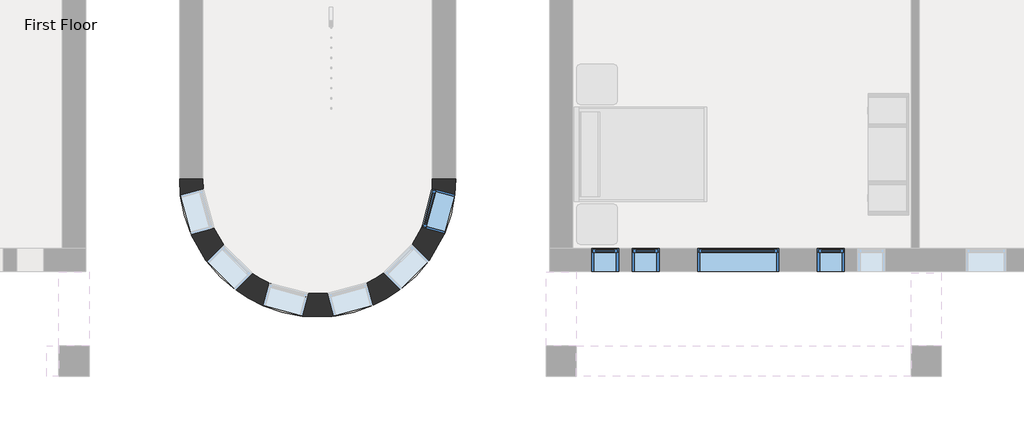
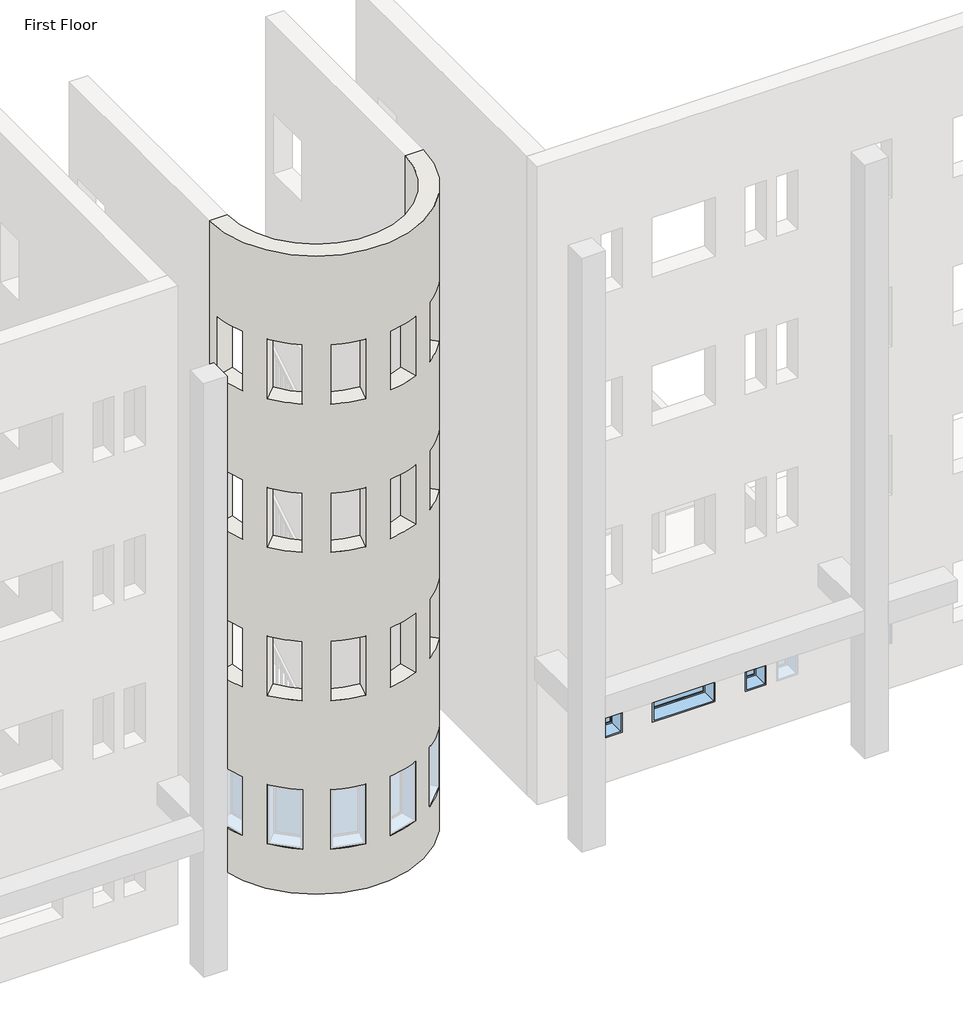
# One storey, part 2 of 23: 5 windows, 1 wall.
"""IFC4 building model written with IfcOpenShell, lengths in millimetres."""

from ifc_helpers import new_model, si_unit, frame, origin, place, context, project, spatial, polyline, circle_curve, transform, mapped, element, save
from ifc_brep_helpers import plane_surface, cylinder_surface, revolved_surface, advanced_brep
from components import window_da97879f, window_d61ef850, window_ed80354a, window_d89bf842

model = new_model("IFC4")

# Units and contexts
model_context = context("Model", 3, world=origin())
ifc_project = project(units=[si_unit("LENGTHUNIT", "METRE", prefix="MILLI")], contexts=[model_context])

# Site, building, storey
site = spatial("IfcSite", under=ifc_project)
building = spatial("IfcBuilding", under=site)
storey = spatial("IfcBuildingStorey", under=building, Name="First Floor", Elevation=0.0)

# Wall
placement = place(None, origin())
element("IfcWall", 1, ObjectType="Exterior - Brick on Mtl. Stud", at=placement, inside=storey, context=model_context, shape_type="AdvancedBrep", body=[
    advanced_brep(
    [(-13333.3839563, -32835.3683133, 13106.4), (-16790.9589563, -32835.3683133, 13106.4), (-17143.3839563, -32835.3683133, 13106.4), (-12980.9589563, -32835.3683133, 13106.4), (-16790.9589563, -32835.3683133, 0.0), (-13333.3839563, -32835.3683133, 0.0), (-12980.9589563, -32835.3683133, 0.0), (-17143.3839563, -32835.3683133, 0.0), (-13495.1055834, -33565.4441794, 8229.6), (-13495.1055834, -33565.4441794, 7010.4), (-13339.1246787, -32976.1377079, 7010.4), (-13339.1246787, -32976.1377079, 8229.6), (-14070.090534, -34251.1654965, 8229.6), (-14070.090534, -34251.1654965, 7010.4), (-13640.3538723, -33818.8015739, 7010.4), (-13640.3538723, -33818.8015739, 8229.6), (-14910.9027666, -34557.5251017, 8229.6), (-14910.9027666, -34557.5251017, 7010.4), (-14322.5579393, -34397.9552919, 7010.4), (-14322.5579393, -34397.9552919, 8229.6), (-15792.2473224, -34402.4341862, 8229.6), (-15792.2473224, -34402.4341862, 7010.4), (-15202.9408509, -34558.4150909, 7010.4), (-15202.9408509, -34558.4150909, 8229.6), (-16477.9686395, -33827.4492356, 8229.6), (-16477.9686395, -33827.4492356, 7010.4), (-16045.6047169, -34257.1858973, 7010.4), (-16045.6047169, -34257.1858973, 8229.6), (-16784.3282447, -32986.637003, 8229.6), (-16784.3282447, -32986.637003, 7010.4), (-16624.7584349, -33574.9818303, 7010.4), (-16624.7584349, -33574.9818303, 8229.6), (-13495.1055834, -33565.4441794, 5181.6), (-13495.1055834, -33565.4441794, 3962.4), (-13339.1246787, -32976.1377079, 3962.4), (-13339.1246787, -32976.1377079, 5181.6), (-14070.090534, -34251.1654965, 5181.6), (-14070.090534, -34251.1654965, 3962.4), (-13640.3538723, -33818.8015739, 3962.4), (-13640.3538723, -33818.8015739, 5181.6), (-14910.9027666, -34557.5251017, 5181.6), (-14910.9027666, -34557.5251017, 3962.4), (-14322.5579393, -34397.9552919, 3962.4), (-14322.5579393, -34397.9552919, 5181.6), (-15792.2473224, -34402.4341862, 5181.6), (-15792.2473224, -34402.4341862, 3962.4), (-15202.9408509, -34558.4150909, 3962.4), (-15202.9408509, -34558.4150909, 5181.6), (-16477.9686395, -33827.4492356, 5181.6), (-16477.9686395, -33827.4492356, 3962.4), (-16045.6047169, -34257.1858973, 3962.4), (-16045.6047169, -34257.1858973, 5181.6), (-16784.3282447, -32986.637003, 5181.6), (-16784.3282447, -32986.637003, 3962.4), (-16624.7584349, -33574.9818303, 3962.4), (-16624.7584349, -33574.9818303, 5181.6), (-13495.1055834, -33565.4441794, 11277.6), (-13495.1055834, -33565.4441794, 10058.4), (-13339.1246787, -32976.1377079, 10058.4), (-13339.1246787, -32976.1377079, 11277.6), (-14070.090534, -34251.1654965, 11277.6), (-14070.090534, -34251.1654965, 10058.4), (-13640.3538723, -33818.8015739, 10058.4), (-13640.3538723, -33818.8015739, 11277.6), (-14910.9027666, -34557.5251017, 11277.6), (-14910.9027666, -34557.5251017, 10058.4), (-14322.5579393, -34397.9552919, 10058.4), (-14322.5579393, -34397.9552919, 11277.6), (-15792.2473224, -34402.4341862, 11277.6), (-15792.2473224, -34402.4341862, 10058.4), (-15202.9408509, -34558.4150909, 10058.4), (-15202.9408509, -34558.4150909, 11277.6), (-16477.9686395, -33827.4492356, 11277.6), (-16477.9686395, -33827.4492356, 10058.4), (-16045.6047169, -34257.1858973, 10058.4), (-16045.6047169, -34257.1858973, 11277.6), (-16784.3282447, -32986.637003, 11277.6), (-16784.3282447, -32986.637003, 10058.4), (-16624.7584349, -33574.9818303, 10058.4), (-16624.7584349, -33574.9818303, 11277.6), (-13495.1055834, -33565.4441794, 2133.6), (-13495.1055834, -33565.4441794, 914.4), (-13339.1246787, -32976.1377079, 914.4), (-13339.1246787, -32976.1377079, 2133.6), (-14070.090534, -34251.1654965, 2133.6), (-14070.090534, -34251.1654965, 914.4), (-13640.3538723, -33818.8015739, 914.4), (-13640.3538723, -33818.8015739, 2133.6), (-14910.9027666, -34557.5251017, 2133.6), (-14910.9027666, -34557.5251017, 914.4), (-14322.5579393, -34397.9552919, 914.4), (-14322.5579393, -34397.9552919, 2133.6), (-15792.2473224, -34402.4341862, 2133.6), (-15792.2473224, -34402.4341862, 914.4), (-15202.9408509, -34558.4150909, 914.4), (-15202.9408509, -34558.4150909, 2133.6), (-16477.9686395, -33827.4492356, 2133.6), (-16477.9686395, -33827.4492356, 914.4), (-16045.6047169, -34257.1858973, 914.4), (-16045.6047169, -34257.1858973, 2133.6), (-16784.3282447, -32986.637003, 914.4), (-16624.7584349, -33574.9818303, 914.4), (-16624.7584349, -33574.9818303, 2133.6), (-16784.3282447, -32986.637003, 2133.6), (-13149.9261748, -33656.8081794, 7010.4), (-13149.9261748, -33656.8081794, 8229.6), (-12993.9452701, -33067.5017078, 8229.6), (-12993.9452701, -33067.5017078, 7010.4), (-13816.8383973, -34502.8787457, 7010.4), (-13816.8383973, -34502.8787457, 8229.6), (-13387.1017356, -34070.5148231, 8229.6), (-13387.1017356, -34070.5148231, 7010.4), (-14817.4366072, -34902.1412384, 7010.4), (-14817.4366072, -34902.1412384, 8229.6), (-14229.0917799, -34742.5714286, 8229.6), (-14229.0917799, -34742.5714286, 7010.4), (-15883.6113224, -34747.6135948, 7010.4), (-15883.6113224, -34747.6135948, 8229.6), (-15294.3048508, -34903.5944995, 8229.6), (-15294.3048508, -34903.5944995, 7010.4), (-16729.6818887, -34080.7013723, 7010.4), (-16729.6818887, -34080.7013723, 8229.6), (-16297.3179661, -34510.4380341, 8229.6), (-16297.3179661, -34510.4380341, 7010.4), (-17128.9443814, -33080.1031624, 7010.4), (-17128.9443814, -33080.1031624, 8229.6), (-16969.3745716, -33668.4479897, 8229.6), (-16969.3745716, -33668.4479897, 7010.4), (-13149.9261748, -33656.8081794, 3962.4), (-13149.9261748, -33656.8081794, 5181.6), (-12993.9452701, -33067.5017078, 5181.6), (-12993.9452701, -33067.5017078, 3962.4), (-13816.8383973, -34502.8787457, 3962.4), (-13816.8383973, -34502.8787457, 5181.6), (-13387.1017356, -34070.5148231, 5181.6), (-13387.1017356, -34070.5148231, 3962.4), (-14817.4366072, -34902.1412384, 3962.4), (-14817.4366072, -34902.1412384, 5181.6), (-14229.0917799, -34742.5714286, 5181.6), (-14229.0917799, -34742.5714286, 3962.4), (-15883.6113224, -34747.6135948, 3962.4), (-15883.6113224, -34747.6135948, 5181.6), (-15294.3048508, -34903.5944995, 5181.6), (-15294.3048508, -34903.5944995, 3962.4), (-16729.6818887, -34080.7013723, 3962.4), (-16729.6818887, -34080.7013723, 5181.6), (-16297.3179661, -34510.4380341, 5181.6), (-16297.3179661, -34510.4380341, 3962.4), (-17128.9443814, -33080.1031624, 3962.4), (-17128.9443814, -33080.1031624, 5181.6), (-16969.3745716, -33668.4479897, 5181.6), (-16969.3745716, -33668.4479897, 3962.4), (-13149.9261748, -33656.8081794, 10058.4), (-13149.9261748, -33656.8081794, 11277.6), (-12993.9452701, -33067.5017078, 11277.6), (-12993.9452701, -33067.5017078, 10058.4), (-13816.8383973, -34502.8787457, 10058.4), (-13816.8383973, -34502.8787457, 11277.6), (-13387.1017356, -34070.5148231, 11277.6), (-13387.1017356, -34070.5148231, 10058.4), (-14817.4366072, -34902.1412384, 10058.4), (-14817.4366072, -34902.1412384, 11277.6), (-14229.0917799, -34742.5714286, 11277.6), (-14229.0917799, -34742.5714286, 10058.4), (-15883.6113224, -34747.6135948, 10058.4), (-15883.6113224, -34747.6135948, 11277.6), (-15294.3048508, -34903.5944995, 11277.6), (-15294.3048508, -34903.5944995, 10058.4), (-16729.6818887, -34080.7013723, 10058.4), (-16729.6818887, -34080.7013723, 11277.6), (-16297.3179661, -34510.4380341, 11277.6), (-16297.3179661, -34510.4380341, 10058.4), (-17128.9443814, -33080.1031624, 10058.4), (-17128.9443814, -33080.1031624, 11277.6), (-16969.3745716, -33668.4479897, 11277.6), (-16969.3745716, -33668.4479897, 10058.4), (-13149.9261748, -33656.8081794, 914.4), (-13149.9261748, -33656.8081794, 2133.6), (-12993.9452701, -33067.5017078, 2133.6), (-12993.9452701, -33067.5017078, 914.4), (-13816.8383973, -34502.8787457, 914.4), (-13816.8383973, -34502.8787457, 2133.6), (-13387.1017356, -34070.5148231, 2133.6), (-13387.1017356, -34070.5148231, 914.4), (-14817.4366072, -34902.1412384, 914.4), (-14817.4366072, -34902.1412384, 2133.6), (-14229.0917799, -34742.5714286, 2133.6), (-14229.0917799, -34742.5714286, 914.4), (-15883.6113224, -34747.6135948, 914.4), (-15883.6113224, -34747.6135948, 2133.6), (-15294.3048508, -34903.5944995, 2133.6), (-15294.3048508, -34903.5944995, 914.4), (-16729.6818887, -34080.7013723, 914.4), (-16729.6818887, -34080.7013723, 2133.6), (-16297.3179661, -34510.4380341, 2133.6), (-16297.3179661, -34510.4380341, 914.4), (-16969.3745716, -33668.4479897, 914.4), (-17128.9443814, -33080.1031624, 914.4), (-17128.9443814, -33080.1031624, 2133.6), (-16969.3745716, -33668.4479897, 2133.6)],
    [
        (0, 1, circle_curve(frame((-15062.1714563, -32835.3683133, 13106.4), z_axis=(0.0, 0.0, -1.0), x_axis=(1.0, 0.0, 0.0)), 1728.7875)),
        (1, 2),
        (2, 3, circle_curve(frame((-15062.1714563, -32835.3683133, 13106.4), z_axis=(0.0, 0.0, 1.0), x_axis=(1.0, 0.0, 0.0)), 2081.2125)),
        (3, 0),
        (4, 5, circle_curve(frame((-15062.1714563, -32835.3683133, 0.0), z_axis=(0.0, 0.0, 1.0), x_axis=(1.0, 0.0, 0.0)), 1728.7875)),
        (5, 6),
        (6, 7, circle_curve(frame((-15062.1714563, -32835.3683133, 0.0), z_axis=(0.0, 0.0, -1.0), x_axis=(1.0, 0.0, 0.0)), 2081.2125)),
        (7, 4),
        (0, 5),
        (4, 1),
        (8, 9),
        (9, 10, circle_curve(frame((-15062.1714563, -32835.3683133, 7010.4), z_axis=(0.0, 0.0, 1.0), x_axis=(1.0, 0.0, 0.0)), 1728.7875)),
        (10, 11),
        (11, 8, circle_curve(frame((-15062.1714563, -32835.3683133, 8229.6), z_axis=(0.0, 0.0, -1.0), x_axis=(1.0, 0.0, 0.0)), 1728.7875)),
        (12, 13),
        (13, 14, circle_curve(frame((-15062.1714563, -32835.3683133, 7010.4), z_axis=(0.0, 0.0, 1.0), x_axis=(1.0, 0.0, 0.0)), 1728.7875)),
        (14, 15),
        (15, 12, circle_curve(frame((-15062.1714563, -32835.3683133, 8229.6), z_axis=(0.0, 0.0, -1.0), x_axis=(1.0, 0.0, 0.0)), 1728.7875)),
        (16, 17),
        (17, 18, circle_curve(frame((-15062.1714563, -32835.3683133, 7010.4), z_axis=(0.0, 0.0, 1.0), x_axis=(1.0, 0.0, 0.0)), 1728.7875)),
        (18, 19),
        (19, 16, circle_curve(frame((-15062.1714563, -32835.3683133, 8229.6), z_axis=(0.0, 0.0, -1.0), x_axis=(1.0, 0.0, 0.0)), 1728.7875)),
        (20, 21),
        (21, 22, circle_curve(frame((-15062.1714563, -32835.3683133, 7010.4), z_axis=(0.0, 0.0, 1.0), x_axis=(1.0, 0.0, 0.0)), 1728.7875)),
        (22, 23),
        (23, 20, circle_curve(frame((-15062.1714563, -32835.3683133, 8229.6), z_axis=(0.0, 0.0, -1.0), x_axis=(1.0, 0.0, 0.0)), 1728.7875)),
        (24, 25),
        (25, 26, circle_curve(frame((-15062.1714563, -32835.3683133, 7010.4), z_axis=(0.0, 0.0, 1.0), x_axis=(1.0, 0.0, 0.0)), 1728.7875)),
        (26, 27),
        (27, 24, circle_curve(frame((-15062.1714563, -32835.3683133, 8229.6), z_axis=(0.0, 0.0, -1.0), x_axis=(1.0, 0.0, 0.0)), 1728.7875)),
        (28, 29),
        (29, 30, circle_curve(frame((-15062.1714563, -32835.3683133, 7010.4), z_axis=(0.0, 0.0, 1.0), x_axis=(1.0, 0.0, 0.0)), 1728.7875)),
        (30, 31),
        (31, 28, circle_curve(frame((-15062.1714563, -32835.3683133, 8229.6), z_axis=(0.0, 0.0, -1.0), x_axis=(1.0, 0.0, 0.0)), 1728.7875)),
        (32, 33),
        (33, 34, circle_curve(frame((-15062.1714563, -32835.3683133, 3962.4), z_axis=(0.0, 0.0, 1.0), x_axis=(1.0, 0.0, 0.0)), 1728.7875)),
        (34, 35),
        (35, 32, circle_curve(frame((-15062.1714563, -32835.3683133, 5181.6), z_axis=(0.0, 0.0, -1.0), x_axis=(1.0, 0.0, 0.0)), 1728.7875)),
        (36, 37),
        (37, 38, circle_curve(frame((-15062.1714563, -32835.3683133, 3962.4), z_axis=(0.0, 0.0, 1.0), x_axis=(1.0, 0.0, 0.0)), 1728.7875)),
        (38, 39),
        (39, 36, circle_curve(frame((-15062.1714563, -32835.3683133, 5181.6), z_axis=(0.0, 0.0, -1.0), x_axis=(1.0, 0.0, 0.0)), 1728.7875)),
        (40, 41),
        (41, 42, circle_curve(frame((-15062.1714563, -32835.3683133, 3962.4), z_axis=(0.0, 0.0, 1.0), x_axis=(1.0, 0.0, 0.0)), 1728.7875)),
        (42, 43),
        (43, 40, circle_curve(frame((-15062.1714563, -32835.3683133, 5181.6), z_axis=(0.0, 0.0, -1.0), x_axis=(1.0, 0.0, 0.0)), 1728.7875)),
        (44, 45),
        (45, 46, circle_curve(frame((-15062.1714563, -32835.3683133, 3962.4), z_axis=(0.0, 0.0, 1.0), x_axis=(1.0, 0.0, 0.0)), 1728.7875)),
        (46, 47),
        (47, 44, circle_curve(frame((-15062.1714563, -32835.3683133, 5181.6), z_axis=(0.0, 0.0, -1.0), x_axis=(1.0, 0.0, 0.0)), 1728.7875)),
        (48, 49),
        (49, 50, circle_curve(frame((-15062.1714563, -32835.3683133, 3962.4), z_axis=(0.0, 0.0, 1.0), x_axis=(1.0, 0.0, 0.0)), 1728.7875)),
        (50, 51),
        (51, 48, circle_curve(frame((-15062.1714563, -32835.3683133, 5181.6), z_axis=(0.0, 0.0, -1.0), x_axis=(1.0, 0.0, 0.0)), 1728.7875)),
        (52, 53),
        (53, 54, circle_curve(frame((-15062.1714563, -32835.3683133, 3962.4), z_axis=(0.0, 0.0, 1.0), x_axis=(1.0, 0.0, 0.0)), 1728.7875)),
        (54, 55),
        (55, 52, circle_curve(frame((-15062.1714563, -32835.3683133, 5181.6), z_axis=(0.0, 0.0, -1.0), x_axis=(1.0, 0.0, 0.0)), 1728.7875)),
        (56, 57),
        (57, 58, circle_curve(frame((-15062.1714563, -32835.3683133, 10058.4), z_axis=(0.0, 0.0, 1.0), x_axis=(1.0, 0.0, 0.0)), 1728.7875)),
        (58, 59),
        (59, 56, circle_curve(frame((-15062.1714563, -32835.3683133, 11277.6), z_axis=(0.0, 0.0, -1.0), x_axis=(1.0, 0.0, 0.0)), 1728.7875)),
        (60, 61),
        (61, 62, circle_curve(frame((-15062.1714563, -32835.3683133, 10058.4), z_axis=(0.0, 0.0, 1.0), x_axis=(1.0, 0.0, 0.0)), 1728.7875)),
        (62, 63),
        (63, 60, circle_curve(frame((-15062.1714563, -32835.3683133, 11277.6), z_axis=(0.0, 0.0, -1.0), x_axis=(1.0, 0.0, 0.0)), 1728.7875)),
        (64, 65),
        (65, 66, circle_curve(frame((-15062.1714563, -32835.3683133, 10058.4), z_axis=(0.0, 0.0, 1.0), x_axis=(1.0, 0.0, 0.0)), 1728.7875)),
        (66, 67),
        (67, 64, circle_curve(frame((-15062.1714563, -32835.3683133, 11277.6), z_axis=(0.0, 0.0, -1.0), x_axis=(1.0, 0.0, 0.0)), 1728.7875)),
        (68, 69),
        (69, 70, circle_curve(frame((-15062.1714563, -32835.3683133, 10058.4), z_axis=(0.0, 0.0, 1.0), x_axis=(1.0, 0.0, 0.0)), 1728.7875)),
        (70, 71),
        (71, 68, circle_curve(frame((-15062.1714563, -32835.3683133, 11277.6), z_axis=(0.0, 0.0, -1.0), x_axis=(1.0, 0.0, 0.0)), 1728.7875)),
        (72, 73),
        (73, 74, circle_curve(frame((-15062.1714563, -32835.3683133, 10058.4), z_axis=(0.0, 0.0, 1.0), x_axis=(1.0, 0.0, 0.0)), 1728.7875)),
        (74, 75),
        (75, 72, circle_curve(frame((-15062.1714563, -32835.3683133, 11277.6), z_axis=(0.0, 0.0, -1.0), x_axis=(1.0, 0.0, 0.0)), 1728.7875)),
        (76, 77),
        (77, 78, circle_curve(frame((-15062.1714563, -32835.3683133, 10058.4), z_axis=(0.0, 0.0, 1.0), x_axis=(1.0, 0.0, 0.0)), 1728.7875)),
        (78, 79),
        (79, 76, circle_curve(frame((-15062.1714563, -32835.3683133, 11277.6), z_axis=(0.0, 0.0, -1.0), x_axis=(1.0, 0.0, 0.0)), 1728.7875)),
        (80, 81),
        (81, 82, circle_curve(frame((-15062.1714563, -32835.3683133, 914.4), z_axis=(0.0, 0.0, 1.0), x_axis=(1.0, 0.0, 0.0)), 1728.7875)),
        (82, 83),
        (83, 80, circle_curve(frame((-15062.1714563, -32835.3683133, 2133.6), z_axis=(0.0, 0.0, -1.0), x_axis=(1.0, 0.0, 0.0)), 1728.7875)),
        (84, 85),
        (85, 86, circle_curve(frame((-15062.1714563, -32835.3683133, 914.4), z_axis=(0.0, 0.0, 1.0), x_axis=(1.0, 0.0, 0.0)), 1728.7875)),
        (86, 87),
        (87, 84, circle_curve(frame((-15062.1714563, -32835.3683133, 2133.6), z_axis=(0.0, 0.0, -1.0), x_axis=(1.0, 0.0, 0.0)), 1728.7875)),
        (88, 89),
        (89, 90, circle_curve(frame((-15062.1714563, -32835.3683133, 914.4), z_axis=(0.0, 0.0, 1.0), x_axis=(1.0, 0.0, 0.0)), 1728.7875)),
        (90, 91),
        (91, 88, circle_curve(frame((-15062.1714563, -32835.3683133, 2133.6), z_axis=(0.0, 0.0, -1.0), x_axis=(1.0, 0.0, 0.0)), 1728.7875)),
        (92, 93),
        (93, 94, circle_curve(frame((-15062.1714563, -32835.3683133, 914.4), z_axis=(0.0, 0.0, 1.0), x_axis=(1.0, 0.0, 0.0)), 1728.7875)),
        (94, 95),
        (95, 92, circle_curve(frame((-15062.1714563, -32835.3683133, 2133.6), z_axis=(0.0, 0.0, -1.0), x_axis=(1.0, 0.0, 0.0)), 1728.7875)),
        (96, 97),
        (97, 98, circle_curve(frame((-15062.1714563, -32835.3683133, 914.4), z_axis=(0.0, 0.0, 1.0), x_axis=(1.0, 0.0, 0.0)), 1728.7875)),
        (98, 99),
        (99, 96, circle_curve(frame((-15062.1714563, -32835.3683133, 2133.6), z_axis=(0.0, 0.0, -1.0), x_axis=(1.0, 0.0, 0.0)), 1728.7875)),
        (100, 101, circle_curve(frame((-15062.1714563, -32835.3683133, 914.4), z_axis=(0.0, 0.0, 1.0), x_axis=(1.0, 0.0, 0.0)), 1728.7875)),
        (101, 102),
        (102, 103, circle_curve(frame((-15062.1714563, -32835.3683133, 2133.6), z_axis=(0.0, 0.0, -1.0), x_axis=(1.0, 0.0, 0.0)), 1728.7875)),
        (103, 100),
        (7, 2),
        (6, 3),
        (104, 105),
        (105, 106, circle_curve(frame((-15062.1714563, -32835.3683133, 8229.6), z_axis=(0.0, 0.0, 1.0), x_axis=(1.0, 0.0, 0.0)), 2081.2125)),
        (106, 107),
        (107, 104, circle_curve(frame((-15062.1714563, -32835.3683133, 7010.4), z_axis=(0.0, 0.0, -1.0), x_axis=(1.0, 0.0, 0.0)), 2081.2125)),
        (108, 109),
        (109, 110, circle_curve(frame((-15062.1714563, -32835.3683133, 8229.6), z_axis=(0.0, 0.0, 1.0), x_axis=(1.0, 0.0, 0.0)), 2081.2125)),
        (110, 111),
        (111, 108, circle_curve(frame((-15062.1714563, -32835.3683133, 7010.4), z_axis=(0.0, 0.0, -1.0), x_axis=(1.0, 0.0, 0.0)), 2081.2125)),
        (112, 113),
        (113, 114, circle_curve(frame((-15062.1714563, -32835.3683133, 8229.6), z_axis=(0.0, 0.0, 1.0), x_axis=(1.0, 0.0, 0.0)), 2081.2125)),
        (114, 115),
        (115, 112, circle_curve(frame((-15062.1714563, -32835.3683133, 7010.4), z_axis=(0.0, 0.0, -1.0), x_axis=(1.0, 0.0, 0.0)), 2081.2125)),
        (116, 117),
        (117, 118, circle_curve(frame((-15062.1714563, -32835.3683133, 8229.6), z_axis=(0.0, 0.0, 1.0), x_axis=(1.0, 0.0, 0.0)), 2081.2125)),
        (118, 119),
        (119, 116, circle_curve(frame((-15062.1714563, -32835.3683133, 7010.4), z_axis=(0.0, 0.0, -1.0), x_axis=(1.0, 0.0, 0.0)), 2081.2125)),
        (120, 121),
        (121, 122, circle_curve(frame((-15062.1714563, -32835.3683133, 8229.6), z_axis=(0.0, 0.0, 1.0), x_axis=(1.0, 0.0, 0.0)), 2081.2125)),
        (122, 123),
        (123, 120, circle_curve(frame((-15062.1714563, -32835.3683133, 7010.4), z_axis=(0.0, 0.0, -1.0), x_axis=(1.0, 0.0, 0.0)), 2081.2125)),
        (124, 125),
        (125, 126, circle_curve(frame((-15062.1714563, -32835.3683133, 8229.6), z_axis=(0.0, 0.0, 1.0), x_axis=(1.0, 0.0, 0.0)), 2081.2125)),
        (126, 127),
        (127, 124, circle_curve(frame((-15062.1714563, -32835.3683133, 7010.4), z_axis=(0.0, 0.0, -1.0), x_axis=(1.0, 0.0, 0.0)), 2081.2125)),
        (128, 129),
        (129, 130, circle_curve(frame((-15062.1714563, -32835.3683133, 5181.6), z_axis=(0.0, 0.0, 1.0), x_axis=(1.0, 0.0, 0.0)), 2081.2125)),
        (130, 131),
        (131, 128, circle_curve(frame((-15062.1714563, -32835.3683133, 3962.4), z_axis=(0.0, 0.0, -1.0), x_axis=(1.0, 0.0, 0.0)), 2081.2125)),
        (132, 133),
        (133, 134, circle_curve(frame((-15062.1714563, -32835.3683133, 5181.6), z_axis=(0.0, 0.0, 1.0), x_axis=(1.0, 0.0, 0.0)), 2081.2125)),
        (134, 135),
        (135, 132, circle_curve(frame((-15062.1714563, -32835.3683133, 3962.4), z_axis=(0.0, 0.0, -1.0), x_axis=(1.0, 0.0, 0.0)), 2081.2125)),
        (136, 137),
        (137, 138, circle_curve(frame((-15062.1714563, -32835.3683133, 5181.6), z_axis=(0.0, 0.0, 1.0), x_axis=(1.0, 0.0, 0.0)), 2081.2125)),
        (138, 139),
        (139, 136, circle_curve(frame((-15062.1714563, -32835.3683133, 3962.4), z_axis=(0.0, 0.0, -1.0), x_axis=(1.0, 0.0, 0.0)), 2081.2125)),
        (140, 141),
        (141, 142, circle_curve(frame((-15062.1714563, -32835.3683133, 5181.6), z_axis=(0.0, 0.0, 1.0), x_axis=(1.0, 0.0, 0.0)), 2081.2125)),
        (142, 143),
        (143, 140, circle_curve(frame((-15062.1714563, -32835.3683133, 3962.4), z_axis=(0.0, 0.0, -1.0), x_axis=(1.0, 0.0, 0.0)), 2081.2125)),
        (144, 145),
        (145, 146, circle_curve(frame((-15062.1714563, -32835.3683133, 5181.6), z_axis=(0.0, 0.0, 1.0), x_axis=(1.0, 0.0, 0.0)), 2081.2125)),
        (146, 147),
        (147, 144, circle_curve(frame((-15062.1714563, -32835.3683133, 3962.4), z_axis=(0.0, 0.0, -1.0), x_axis=(1.0, 0.0, 0.0)), 2081.2125)),
        (148, 149),
        (149, 150, circle_curve(frame((-15062.1714563, -32835.3683133, 5181.6), z_axis=(0.0, 0.0, 1.0), x_axis=(1.0, 0.0, 0.0)), 2081.2125)),
        (150, 151),
        (151, 148, circle_curve(frame((-15062.1714563, -32835.3683133, 3962.4), z_axis=(0.0, 0.0, -1.0), x_axis=(1.0, 0.0, 0.0)), 2081.2125)),
        (152, 153),
        (153, 154, circle_curve(frame((-15062.1714563, -32835.3683133, 11277.6), z_axis=(0.0, 0.0, 1.0), x_axis=(1.0, 0.0, 0.0)), 2081.2125)),
        (154, 155),
        (155, 152, circle_curve(frame((-15062.1714563, -32835.3683133, 10058.4), z_axis=(0.0, 0.0, -1.0), x_axis=(1.0, 0.0, 0.0)), 2081.2125)),
        (156, 157),
        (157, 158, circle_curve(frame((-15062.1714563, -32835.3683133, 11277.6), z_axis=(0.0, 0.0, 1.0), x_axis=(1.0, 0.0, 0.0)), 2081.2125)),
        (158, 159),
        (159, 156, circle_curve(frame((-15062.1714563, -32835.3683133, 10058.4), z_axis=(0.0, 0.0, -1.0), x_axis=(1.0, 0.0, 0.0)), 2081.2125)),
        (160, 161),
        (161, 162, circle_curve(frame((-15062.1714563, -32835.3683133, 11277.6), z_axis=(0.0, 0.0, 1.0), x_axis=(1.0, 0.0, 0.0)), 2081.2125)),
        (162, 163),
        (163, 160, circle_curve(frame((-15062.1714563, -32835.3683133, 10058.4), z_axis=(0.0, 0.0, -1.0), x_axis=(1.0, 0.0, 0.0)), 2081.2125)),
        (164, 165),
        (165, 166, circle_curve(frame((-15062.1714563, -32835.3683133, 11277.6), z_axis=(0.0, 0.0, 1.0), x_axis=(1.0, 0.0, 0.0)), 2081.2125)),
        (166, 167),
        (167, 164, circle_curve(frame((-15062.1714563, -32835.3683133, 10058.4), z_axis=(0.0, 0.0, -1.0), x_axis=(1.0, 0.0, 0.0)), 2081.2125)),
        (168, 169),
        (169, 170, circle_curve(frame((-15062.1714563, -32835.3683133, 11277.6), z_axis=(0.0, 0.0, 1.0), x_axis=(1.0, 0.0, 0.0)), 2081.2125)),
        (170, 171),
        (171, 168, circle_curve(frame((-15062.1714563, -32835.3683133, 10058.4), z_axis=(0.0, 0.0, -1.0), x_axis=(1.0, 0.0, 0.0)), 2081.2125)),
        (172, 173),
        (173, 174, circle_curve(frame((-15062.1714563, -32835.3683133, 11277.6), z_axis=(0.0, 0.0, 1.0), x_axis=(1.0, 0.0, 0.0)), 2081.2125)),
        (174, 175),
        (175, 172, circle_curve(frame((-15062.1714563, -32835.3683133, 10058.4), z_axis=(0.0, 0.0, -1.0), x_axis=(1.0, 0.0, 0.0)), 2081.2125)),
        (176, 177),
        (177, 178, circle_curve(frame((-15062.1714563, -32835.3683133, 2133.6), z_axis=(0.0, 0.0, 1.0), x_axis=(1.0, 0.0, 0.0)), 2081.2125)),
        (178, 179),
        (179, 176, circle_curve(frame((-15062.1714563, -32835.3683133, 914.4), z_axis=(0.0, 0.0, -1.0), x_axis=(1.0, 0.0, 0.0)), 2081.2125)),
        (180, 181),
        (181, 182, circle_curve(frame((-15062.1714563, -32835.3683133, 2133.6), z_axis=(0.0, 0.0, 1.0), x_axis=(1.0, 0.0, 0.0)), 2081.2125)),
        (182, 183),
        (183, 180, circle_curve(frame((-15062.1714563, -32835.3683133, 914.4), z_axis=(0.0, 0.0, -1.0), x_axis=(1.0, 0.0, 0.0)), 2081.2125)),
        (184, 185),
        (185, 186, circle_curve(frame((-15062.1714563, -32835.3683133, 2133.6), z_axis=(0.0, 0.0, 1.0), x_axis=(1.0, 0.0, 0.0)), 2081.2125)),
        (186, 187),
        (187, 184, circle_curve(frame((-15062.1714563, -32835.3683133, 914.4), z_axis=(0.0, 0.0, -1.0), x_axis=(1.0, 0.0, 0.0)), 2081.2125)),
        (188, 189),
        (189, 190, circle_curve(frame((-15062.1714563, -32835.3683133, 2133.6), z_axis=(0.0, 0.0, 1.0), x_axis=(1.0, 0.0, 0.0)), 2081.2125)),
        (190, 191),
        (191, 188, circle_curve(frame((-15062.1714563, -32835.3683133, 914.4), z_axis=(0.0, 0.0, -1.0), x_axis=(1.0, 0.0, 0.0)), 2081.2125)),
        (192, 193),
        (193, 194, circle_curve(frame((-15062.1714563, -32835.3683133, 2133.6), z_axis=(0.0, 0.0, 1.0), x_axis=(1.0, 0.0, 0.0)), 2081.2125)),
        (194, 195),
        (195, 192, circle_curve(frame((-15062.1714563, -32835.3683133, 914.4), z_axis=(0.0, 0.0, -1.0), x_axis=(1.0, 0.0, 0.0)), 2081.2125)),
        (196, 197, circle_curve(frame((-15062.1714563, -32835.3683133, 914.4), z_axis=(0.0, 0.0, -1.0), x_axis=(1.0, 0.0, 0.0)), 2081.2125)),
        (197, 198),
        (198, 199, circle_curve(frame((-15062.1714563, -32835.3683133, 2133.6), z_axis=(0.0, 0.0, 1.0), x_axis=(1.0, 0.0, 0.0)), 2081.2125)),
        (199, 196),
        (8, 105),
        (104, 9),
        (107, 10),
        (106, 11),
        (12, 109),
        (108, 13),
        (111, 14),
        (110, 15),
        (16, 113),
        (112, 17),
        (115, 18),
        (114, 19),
        (20, 117),
        (116, 21),
        (119, 22),
        (118, 23),
        (24, 121),
        (120, 25),
        (123, 26),
        (122, 27),
        (28, 125),
        (124, 29),
        (127, 30),
        (126, 31),
        (32, 129),
        (128, 33),
        (131, 34),
        (130, 35),
        (36, 133),
        (132, 37),
        (135, 38),
        (134, 39),
        (40, 137),
        (136, 41),
        (139, 42),
        (138, 43),
        (44, 141),
        (140, 45),
        (143, 46),
        (142, 47),
        (48, 145),
        (144, 49),
        (147, 50),
        (146, 51),
        (52, 149),
        (148, 53),
        (151, 54),
        (150, 55),
        (56, 153),
        (152, 57),
        (155, 58),
        (154, 59),
        (60, 157),
        (156, 61),
        (159, 62),
        (158, 63),
        (64, 161),
        (160, 65),
        (163, 66),
        (162, 67),
        (68, 165),
        (164, 69),
        (167, 70),
        (166, 71),
        (72, 169),
        (168, 73),
        (171, 74),
        (170, 75),
        (76, 173),
        (172, 77),
        (175, 78),
        (174, 79),
        (80, 177),
        (176, 81),
        (179, 82),
        (178, 83),
        (84, 181),
        (180, 85),
        (183, 86),
        (182, 87),
        (88, 185),
        (184, 89),
        (187, 90),
        (186, 91),
        (92, 189),
        (188, 93),
        (191, 94),
        (190, 95),
        (96, 193),
        (192, 97),
        (195, 98),
        (194, 99),
        (197, 100),
        (103, 198),
        (196, 101),
        (199, 102),
    ],
    [
        plane_surface(frame((-13333.3839563, -32835.3683133, 13106.4), z_axis=(0.0, 0.0, 1.0), x_axis=(0.0, -1.0, 0.0))),
        plane_surface(frame((-13333.3839563, -32835.3683133, 0.0), z_axis=(0.0, 0.0, -1.0), x_axis=(0.0, 1.0, 0.0))),
        revolved_surface(polyline([(-13333.3839563, -32835.3683133, 0.0), (-13333.3839563, -32835.3683133, 13106.4)]), (-15062.1714563, -32835.3683133, 0.0), (0.0, 0.0, -1.0)),
        plane_surface(frame((-16790.9589563, -32835.3683133, 13106.4), z_axis=(0.0, 1.0, 0.0), x_axis=(0.0, 0.0, -1.0))),
        cylinder_surface(frame((-15062.1714563, -32835.3683133, 0.0), z_axis=(0.0, 0.0, 1.0), x_axis=(1.0, 0.0, 0.0)), 2081.2125),
        plane_surface(frame((-12980.9589563, -32835.3683133, 13106.4), z_axis=(0.0, 1.0, 0.0), x_axis=(0.0, 0.0, -1.0))),
        plane_surface(frame((-13495.1055834, -33565.4441794, 8229.6), z_axis=(0.2558741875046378, 0.9667100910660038, 0.0), x_axis=(0.9667100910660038, -0.2558741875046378, 0.0))),
        plane_surface(frame((-13495.1055834, -33565.4441794, 7010.4), z_axis=(0.0, 0.0, 1.0000000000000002), x_axis=(0.9667100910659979, -0.2558741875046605, 0.0))),
        plane_surface(frame((-13339.1246787, -32976.1377079, 7010.4), z_axis=(-0.25587418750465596, -0.9667100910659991, 0.0), x_axis=(0.9667100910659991, -0.25587418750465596, 0.0))),
        plane_surface(frame((-13339.1246787, -32976.1377079, 8229.6), z_axis=(0.0, 0.0, -1.0000000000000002), x_axis=(0.9667100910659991, -0.25587418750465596, 0.0))),
        plane_surface(frame((-14070.090534, -34251.1654965, 8229.6), z_axis=(0.7049485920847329, 0.7092584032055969, 0.0), x_axis=(0.7092584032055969, -0.7049485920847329, 0.0))),
        plane_surface(frame((-14070.090534, -34251.1654965, 7010.4), z_axis=(0.0, 0.0, 1.0000000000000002), x_axis=(0.7092584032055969, -0.7049485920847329, 0.0))),
        plane_surface(frame((-13640.3538723, -33818.8015739, 7010.4), z_axis=(-0.7049485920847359, -0.7092584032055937, 0.0), x_axis=(0.7092584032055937, -0.7049485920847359, 0.0))),
        plane_surface(frame((-13640.3538723, -33818.8015739, 8229.6), z_axis=(0.0, 0.0, -1.0), x_axis=(0.7092584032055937, -0.7049485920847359, 0.0))),
        plane_surface(frame((-14910.9027666, -34557.5251017, 8229.6), z_axis=(0.9651325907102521, 0.26176149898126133, 0.0), x_axis=(0.26176149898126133, -0.9651325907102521, 0.0))),
        plane_surface(frame((-14910.9027666, -34557.5251017, 7010.4), z_axis=(0.0, 0.0, 1.0), x_axis=(0.26176149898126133, -0.9651325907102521, 0.0))),
        plane_surface(frame((-14322.5579393, -34397.9552919, 7010.4), z_axis=(-0.9651325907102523, -0.2617614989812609, 0.0), x_axis=(0.2617614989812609, -0.9651325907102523, 0.0))),
        plane_surface(frame((-14322.5579393, -34397.9552919, 8229.6), z_axis=(0.0, 0.0, -1.0), x_axis=(0.2617614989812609, -0.9651325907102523, 0.0))),
        plane_surface(frame((-15792.2473224, -34402.4341862, 8229.6), z_axis=(0.9667100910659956, -0.25587418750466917, 0.0), x_axis=(-0.25587418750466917, -0.9667100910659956, 0.0))),
        plane_surface(frame((-15792.2473224, -34402.4341862, 7010.4), z_axis=(0.0, 0.0, 1.0), x_axis=(-0.25587418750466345, -0.966710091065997, 0.0))),
        plane_surface(frame((-15202.9408509, -34558.4150909, 7010.4), z_axis=(-0.9667100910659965, 0.25587418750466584, 0.0), x_axis=(-0.25587418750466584, -0.9667100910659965, 0.0))),
        plane_surface(frame((-15202.9408509, -34558.4150909, 8229.6), z_axis=(0.0, 0.0, -1.0), x_axis=(-0.25587418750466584, -0.9667100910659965, 0.0))),
        plane_surface(frame((-16477.9686395, -33827.4492356, 8229.6), z_axis=(0.7092584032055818, -0.704948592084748, 0.0), x_axis=(-0.704948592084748, -0.7092584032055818, 0.0))),
        plane_surface(frame((-16477.9686395, -33827.4492356, 7010.4), z_axis=(0.0, 0.0, 1.0), x_axis=(-0.704948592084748, -0.7092584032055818, 0.0))),
        plane_surface(frame((-16045.6047169, -34257.1858973, 7010.4), z_axis=(-0.7092584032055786, 0.7049485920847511, 0.0), x_axis=(-0.7049485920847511, -0.7092584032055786, 0.0))),
        plane_surface(frame((-16045.6047169, -34257.1858973, 8229.6), z_axis=(0.0, 0.0, -1.0), x_axis=(-0.7049485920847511, -0.7092584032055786, 0.0))),
        plane_surface(frame((-16784.3282447, -32986.637003, 8229.6), z_axis=(0.26176149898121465, -0.9651325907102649, 0.0), x_axis=(-0.9651325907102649, -0.26176149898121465, 0.0))),
        plane_surface(frame((-16784.3282447, -32986.637003, 7010.4), z_axis=(0.0, 0.0, 1.0000000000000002), x_axis=(-0.9651325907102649, -0.26176149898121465, 0.0))),
        plane_surface(frame((-16624.7584349, -33574.9818303, 7010.4), z_axis=(-0.261761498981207, 0.965132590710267, 0.0), x_axis=(-0.965132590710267, -0.261761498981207, 0.0))),
        plane_surface(frame((-16624.7584349, -33574.9818303, 8229.6), z_axis=(0.0, 0.0, -1.0000000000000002), x_axis=(-0.965132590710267, -0.261761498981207, 0.0))),
        plane_surface(frame((-13495.1055834, -33565.4441794, 5181.6), z_axis=(0.2558741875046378, 0.9667100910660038, 0.0), x_axis=(0.9667100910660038, -0.2558741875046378, 0.0))),
        plane_surface(frame((-13495.1055834, -33565.4441794, 3962.4), z_axis=(0.0, 0.0, 1.0000000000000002), x_axis=(0.9667100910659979, -0.2558741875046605, 0.0))),
        plane_surface(frame((-13339.1246787, -32976.1377079, 3962.4), z_axis=(-0.25587418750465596, -0.9667100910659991, 0.0), x_axis=(0.9667100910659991, -0.25587418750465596, 0.0))),
        plane_surface(frame((-13339.1246787, -32976.1377079, 5181.6), z_axis=(0.0, 0.0, -1.0000000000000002), x_axis=(0.9667100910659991, -0.25587418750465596, 0.0))),
        plane_surface(frame((-14070.090534, -34251.1654965, 5181.6), z_axis=(0.7049485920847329, 0.7092584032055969, 0.0), x_axis=(0.7092584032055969, -0.7049485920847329, 0.0))),
        plane_surface(frame((-14070.090534, -34251.1654965, 3962.4), z_axis=(0.0, 0.0, 1.0000000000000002), x_axis=(0.7092584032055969, -0.7049485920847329, 0.0))),
        plane_surface(frame((-13640.3538723, -33818.8015739, 3962.4), z_axis=(-0.7049485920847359, -0.7092584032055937, 0.0), x_axis=(0.7092584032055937, -0.7049485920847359, 0.0))),
        plane_surface(frame((-13640.3538723, -33818.8015739, 5181.6), z_axis=(0.0, 0.0, -1.0), x_axis=(0.7092584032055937, -0.7049485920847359, 0.0))),
        plane_surface(frame((-14910.9027666, -34557.5251017, 5181.6), z_axis=(0.9651325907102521, 0.26176149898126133, 0.0), x_axis=(0.26176149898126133, -0.9651325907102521, 0.0))),
        plane_surface(frame((-14910.9027666, -34557.5251017, 3962.4), z_axis=(0.0, 0.0, 1.0), x_axis=(0.26176149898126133, -0.9651325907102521, 0.0))),
        plane_surface(frame((-14322.5579393, -34397.9552919, 3962.4), z_axis=(-0.9651325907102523, -0.2617614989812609, 0.0), x_axis=(0.2617614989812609, -0.9651325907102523, 0.0))),
        plane_surface(frame((-14322.5579393, -34397.9552919, 5181.6), z_axis=(0.0, 0.0, -1.0), x_axis=(0.2617614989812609, -0.9651325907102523, 0.0))),
        plane_surface(frame((-15792.2473224, -34402.4341862, 5181.6), z_axis=(0.9667100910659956, -0.25587418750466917, 0.0), x_axis=(-0.25587418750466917, -0.9667100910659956, 0.0))),
        plane_surface(frame((-15792.2473224, -34402.4341862, 3962.4), z_axis=(0.0, 0.0, 1.0), x_axis=(-0.25587418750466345, -0.966710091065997, 0.0))),
        plane_surface(frame((-15202.9408509, -34558.4150909, 3962.4), z_axis=(-0.9667100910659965, 0.25587418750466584, 0.0), x_axis=(-0.25587418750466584, -0.9667100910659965, 0.0))),
        plane_surface(frame((-15202.9408509, -34558.4150909, 5181.6), z_axis=(0.0, 0.0, -1.0), x_axis=(-0.25587418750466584, -0.9667100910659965, 0.0))),
        plane_surface(frame((-16477.9686395, -33827.4492356, 5181.6), z_axis=(0.7092584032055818, -0.704948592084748, 0.0), x_axis=(-0.704948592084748, -0.7092584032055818, 0.0))),
        plane_surface(frame((-16477.9686395, -33827.4492356, 3962.4), z_axis=(0.0, 0.0, 1.0), x_axis=(-0.704948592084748, -0.7092584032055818, 0.0))),
        plane_surface(frame((-16045.6047169, -34257.1858973, 3962.4), z_axis=(-0.7092584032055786, 0.7049485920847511, 0.0), x_axis=(-0.7049485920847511, -0.7092584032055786, 0.0))),
        plane_surface(frame((-16045.6047169, -34257.1858973, 5181.6), z_axis=(0.0, 0.0, -1.0), x_axis=(-0.7049485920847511, -0.7092584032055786, 0.0))),
        plane_surface(frame((-16784.3282447, -32986.637003, 5181.6), z_axis=(0.26176149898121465, -0.9651325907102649, 0.0), x_axis=(-0.9651325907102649, -0.26176149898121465, 0.0))),
        plane_surface(frame((-16784.3282447, -32986.637003, 3962.4), z_axis=(0.0, 0.0, 1.0000000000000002), x_axis=(-0.9651325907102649, -0.26176149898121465, 0.0))),
        plane_surface(frame((-16624.7584349, -33574.9818303, 3962.4), z_axis=(-0.261761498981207, 0.965132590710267, 0.0), x_axis=(-0.965132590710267, -0.261761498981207, 0.0))),
        plane_surface(frame((-16624.7584349, -33574.9818303, 5181.6), z_axis=(0.0, 0.0, -1.0000000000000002), x_axis=(-0.965132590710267, -0.261761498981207, 0.0))),
        plane_surface(frame((-13495.1055834, -33565.4441794, 11277.6), z_axis=(0.2558741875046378, 0.9667100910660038, 0.0), x_axis=(0.9667100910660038, -0.2558741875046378, 0.0))),
        plane_surface(frame((-13495.1055834, -33565.4441794, 10058.4), z_axis=(0.0, 0.0, 1.0000000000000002), x_axis=(0.9667100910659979, -0.2558741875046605, 0.0))),
        plane_surface(frame((-13339.1246787, -32976.1377079, 10058.4), z_axis=(-0.25587418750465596, -0.9667100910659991, 0.0), x_axis=(0.9667100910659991, -0.25587418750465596, 0.0))),
        plane_surface(frame((-13339.1246787, -32976.1377079, 11277.6), z_axis=(0.0, 0.0, -1.0000000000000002), x_axis=(0.9667100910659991, -0.25587418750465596, 0.0))),
        plane_surface(frame((-14070.090534, -34251.1654965, 11277.6), z_axis=(0.7049485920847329, 0.7092584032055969, 0.0), x_axis=(0.7092584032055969, -0.7049485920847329, 0.0))),
        plane_surface(frame((-14070.090534, -34251.1654965, 10058.4), z_axis=(0.0, 0.0, 1.0000000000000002), x_axis=(0.7092584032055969, -0.7049485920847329, 0.0))),
        plane_surface(frame((-13640.3538723, -33818.8015739, 10058.4), z_axis=(-0.7049485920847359, -0.7092584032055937, 0.0), x_axis=(0.7092584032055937, -0.7049485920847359, 0.0))),
        plane_surface(frame((-13640.3538723, -33818.8015739, 11277.6), z_axis=(0.0, 0.0, -1.0), x_axis=(0.7092584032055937, -0.7049485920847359, 0.0))),
        plane_surface(frame((-14910.9027666, -34557.5251017, 11277.6), z_axis=(0.9651325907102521, 0.26176149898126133, 0.0), x_axis=(0.26176149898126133, -0.9651325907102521, 0.0))),
        plane_surface(frame((-14910.9027666, -34557.5251017, 10058.4), z_axis=(0.0, 0.0, 1.0), x_axis=(0.26176149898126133, -0.9651325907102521, 0.0))),
        plane_surface(frame((-14322.5579393, -34397.9552919, 10058.4), z_axis=(-0.9651325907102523, -0.2617614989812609, 0.0), x_axis=(0.2617614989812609, -0.9651325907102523, 0.0))),
        plane_surface(frame((-14322.5579393, -34397.9552919, 11277.6), z_axis=(0.0, 0.0, -1.0), x_axis=(0.2617614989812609, -0.9651325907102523, 0.0))),
        plane_surface(frame((-15792.2473224, -34402.4341862, 11277.6), z_axis=(0.9667100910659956, -0.25587418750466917, 0.0), x_axis=(-0.25587418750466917, -0.9667100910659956, 0.0))),
        plane_surface(frame((-15792.2473224, -34402.4341862, 10058.4), z_axis=(0.0, 0.0, 1.0), x_axis=(-0.25587418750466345, -0.966710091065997, 0.0))),
        plane_surface(frame((-15202.9408509, -34558.4150909, 10058.4), z_axis=(-0.9667100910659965, 0.25587418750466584, 0.0), x_axis=(-0.25587418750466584, -0.9667100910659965, 0.0))),
        plane_surface(frame((-15202.9408509, -34558.4150909, 11277.6), z_axis=(0.0, 0.0, -1.0), x_axis=(-0.25587418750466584, -0.9667100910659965, 0.0))),
        plane_surface(frame((-16477.9686395, -33827.4492356, 11277.6), z_axis=(0.7092584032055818, -0.704948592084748, 0.0), x_axis=(-0.704948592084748, -0.7092584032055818, 0.0))),
        plane_surface(frame((-16477.9686395, -33827.4492356, 10058.4), z_axis=(0.0, 0.0, 1.0), x_axis=(-0.704948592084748, -0.7092584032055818, 0.0))),
        plane_surface(frame((-16045.6047169, -34257.1858973, 10058.4), z_axis=(-0.7092584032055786, 0.7049485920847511, 0.0), x_axis=(-0.7049485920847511, -0.7092584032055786, 0.0))),
        plane_surface(frame((-16045.6047169, -34257.1858973, 11277.6), z_axis=(0.0, 0.0, -1.0), x_axis=(-0.7049485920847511, -0.7092584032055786, 0.0))),
        plane_surface(frame((-16784.3282447, -32986.637003, 11277.6), z_axis=(0.26176149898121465, -0.9651325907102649, 0.0), x_axis=(-0.9651325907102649, -0.26176149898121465, 0.0))),
        plane_surface(frame((-16784.3282447, -32986.637003, 10058.4), z_axis=(0.0, 0.0, 1.0000000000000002), x_axis=(-0.9651325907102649, -0.26176149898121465, 0.0))),
        plane_surface(frame((-16624.7584349, -33574.9818303, 10058.4), z_axis=(-0.261761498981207, 0.965132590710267, 0.0), x_axis=(-0.965132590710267, -0.261761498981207, 0.0))),
        plane_surface(frame((-16624.7584349, -33574.9818303, 11277.6), z_axis=(0.0, 0.0, -1.0000000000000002), x_axis=(-0.965132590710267, -0.261761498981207, 0.0))),
        plane_surface(frame((-13495.1055834, -33565.4441794, 2133.6), z_axis=(0.25587418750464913, 0.9667100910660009, 0.0), x_axis=(0.9667100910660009, -0.25587418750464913, 0.0))),
        plane_surface(frame((-13495.1055834, -33565.4441794, 914.4), z_axis=(0.0, 0.0, 1.0), x_axis=(0.9667100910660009, -0.25587418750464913, 0.0))),
        plane_surface(frame((-13339.1246787, -32976.1377079, 914.4), z_axis=(-0.2558741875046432, -0.9667100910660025, 0.0), x_axis=(0.9667100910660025, -0.2558741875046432, 0.0))),
        plane_surface(frame((-13339.1246787, -32976.1377079, 2133.6), z_axis=(0.0, 0.0, -1.0), x_axis=(0.9667100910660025, -0.2558741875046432, 0.0))),
        plane_surface(frame((-14070.090534, -34251.1654965, 2133.6), z_axis=(0.7049485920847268, 0.7092584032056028, 0.0), x_axis=(0.7092584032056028, -0.7049485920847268, 0.0))),
        plane_surface(frame((-14070.090534, -34251.1654965, 914.4), z_axis=(0.0, 0.0, 1.0), x_axis=(0.7092584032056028, -0.7049485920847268, 0.0))),
        plane_surface(frame((-13640.3538723, -33818.8015739, 914.4), z_axis=(-0.7049485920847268, -0.709258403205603, 0.0), x_axis=(0.709258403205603, -0.7049485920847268, 0.0))),
        plane_surface(frame((-13640.3538723, -33818.8015739, 2133.6), z_axis=(0.0, 0.0, -1.0000000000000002), x_axis=(0.709258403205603, -0.7049485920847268, 0.0))),
        plane_surface(frame((-14910.9027666, -34557.5251017, 2133.6), z_axis=(0.9651325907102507, 0.261761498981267, 0.0), x_axis=(0.261761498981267, -0.9651325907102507, 0.0))),
        plane_surface(frame((-14910.9027666, -34557.5251017, 914.4), z_axis=(0.0, 0.0, 1.0000000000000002), x_axis=(0.2617614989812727, -0.9651325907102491, 0.0))),
        plane_surface(frame((-14322.5579393, -34397.9552919, 914.4), z_axis=(-0.9651325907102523, -0.2617614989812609, 0.0), x_axis=(0.2617614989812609, -0.9651325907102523, 0.0))),
        plane_surface(frame((-14322.5579393, -34397.9552919, 2133.6), z_axis=(0.0, 0.0, -1.0), x_axis=(0.2617614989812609, -0.9651325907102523, 0.0))),
        plane_surface(frame((-15792.2473224, -34402.4341862, 2133.6), z_axis=(0.966710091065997, -0.25587418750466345, 0.0), x_axis=(-0.25587418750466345, -0.966710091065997, 0.0))),
        plane_surface(frame((-15792.2473224, -34402.4341862, 914.4), z_axis=(0.0, 0.0, 1.0), x_axis=(-0.25587418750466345, -0.966710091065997, 0.0))),
        plane_surface(frame((-15202.9408509, -34558.4150909, 914.4), z_axis=(-0.9667100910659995, 0.25587418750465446, 0.0), x_axis=(-0.25587418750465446, -0.9667100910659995, 0.0))),
        plane_surface(frame((-15202.9408509, -34558.4150909, 2133.6), z_axis=(0.0, 0.0, -1.0), x_axis=(-0.25587418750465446, -0.9667100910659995, 0.0))),
        plane_surface(frame((-17800.7518014, -35158.3194348, 2133.6), z_axis=(0.7092584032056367, -0.7049485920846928, 0.0), x_axis=(0.7049485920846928, 0.7092584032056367, 0.0))),
        plane_surface(frame((-17800.7518014, -35158.3194348, 914.4), z_axis=(0.0, 0.0, 1.0000000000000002), x_axis=(0.7049485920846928, 0.7092584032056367, 0.0))),
        plane_surface(frame((-17368.3878788, -35588.0560966, 914.4), z_axis=(-0.7092584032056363, 0.7049485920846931, 0.0), x_axis=(0.7049485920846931, 0.7092584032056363, 0.0))),
        plane_surface(frame((-17368.3878788, -35588.0560966, 2133.6), z_axis=(0.0, 0.0, -1.0), x_axis=(0.7049485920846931, 0.7092584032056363, 0.0))),
        plane_surface(frame((-18595.3271662, -33477.8128238, 2133.6), z_axis=(0.26176149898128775, -0.965132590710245, 0.0), x_axis=(0.965132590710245, 0.26176149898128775, 0.0))),
        plane_surface(frame((-18595.3271662, -33477.8128238, 914.4), z_axis=(0.0, 0.0, 1.0), x_axis=(0.965132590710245, 0.26176149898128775, 0.0))),
        plane_surface(frame((-18435.7573564, -34066.1576511, 914.4), z_axis=(-0.2617614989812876, 0.965132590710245, 0.0), x_axis=(0.965132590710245, 0.2617614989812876, 0.0))),
        plane_surface(frame((-18435.7573564, -34066.1576511, 2133.6), z_axis=(0.0, 0.0, -1.0), x_axis=(0.965132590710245, 0.2617614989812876, 0.0))),
    ],
    [
        (0, [[1, 2, 3, 4]]),
        (1, [[5, 6, 7, 8]]),
        (2, [[-1, 9, -5, 10], [11, 12, 13, 14], [15, 16, 17, 18], [19, 20, 21, 22], [23, 24, 25, 26], [27, 28, 29, 30], [31, 32, 33, 34], [35, 36, 37, 38], [39, 40, 41, 42], [43, 44, 45, 46], [47, 48, 49, 50], [51, 52, 53, 54], [55, 56, 57, 58], [59, 60, 61, 62], [63, 64, 65, 66], [67, 68, 69, 70], [71, 72, 73, 74], [75, 76, 77, 78], [79, 80, 81, 82], [83, 84, 85, 86], [87, 88, 89, 90], [91, 92, 93, 94], [95, 96, 97, 98], [99, 100, 101, 102], [103, 104, 105, 106]]),
        (3, [[-2, -10, -8, 107]]),
        (4, [[-3, -107, -7, 108], [109, 110, 111, 112], [113, 114, 115, 116], [117, 118, 119, 120], [121, 122, 123, 124], [125, 126, 127, 128], [129, 130, 131, 132], [133, 134, 135, 136], [137, 138, 139, 140], [141, 142, 143, 144], [145, 146, 147, 148], [149, 150, 151, 152], [153, 154, 155, 156], [157, 158, 159, 160], [161, 162, 163, 164], [165, 166, 167, 168], [169, 170, 171, 172], [173, 174, 175, 176], [177, 178, 179, 180], [181, 182, 183, 184], [185, 186, 187, 188], [189, 190, 191, 192], [193, 194, 195, 196], [197, 198, 199, 200], [201, 202, 203, 204]]),
        (5, [[-4, -108, -6, -9]]),
        (6, [[-11, 205, -109, 206]]),
        (7, [[-12, -206, -112, 207]]),
        (8, [[-13, -207, -111, 208]]),
        (9, [[-14, -208, -110, -205]]),
        (10, [[-15, 209, -113, 210]]),
        (11, [[-16, -210, -116, 211]]),
        (12, [[-17, -211, -115, 212]]),
        (13, [[-18, -212, -114, -209]]),
        (14, [[-19, 213, -117, 214]]),
        (15, [[-20, -214, -120, 215]]),
        (16, [[-21, -215, -119, 216]]),
        (17, [[-22, -216, -118, -213]]),
        (18, [[-23, 217, -121, 218]]),
        (19, [[-24, -218, -124, 219]]),
        (20, [[-25, -219, -123, 220]]),
        (21, [[-26, -220, -122, -217]]),
        (22, [[-27, 221, -125, 222]]),
        (23, [[-28, -222, -128, 223]]),
        (24, [[-29, -223, -127, 224]]),
        (25, [[-30, -224, -126, -221]]),
        (26, [[-31, 225, -129, 226]]),
        (27, [[-32, -226, -132, 227]]),
        (28, [[-33, -227, -131, 228]]),
        (29, [[-34, -228, -130, -225]]),
        (30, [[-35, 229, -133, 230]]),
        (31, [[-36, -230, -136, 231]]),
        (32, [[-37, -231, -135, 232]]),
        (33, [[-38, -232, -134, -229]]),
        (34, [[-39, 233, -137, 234]]),
        (35, [[-40, -234, -140, 235]]),
        (36, [[-41, -235, -139, 236]]),
        (37, [[-42, -236, -138, -233]]),
        (38, [[-43, 237, -141, 238]]),
        (39, [[-44, -238, -144, 239]]),
        (40, [[-45, -239, -143, 240]]),
        (41, [[-46, -240, -142, -237]]),
        (42, [[-47, 241, -145, 242]]),
        (43, [[-48, -242, -148, 243]]),
        (44, [[-49, -243, -147, 244]]),
        (45, [[-50, -244, -146, -241]]),
        (46, [[-51, 245, -149, 246]]),
        (47, [[-52, -246, -152, 247]]),
        (48, [[-53, -247, -151, 248]]),
        (49, [[-54, -248, -150, -245]]),
        (50, [[-55, 249, -153, 250]]),
        (51, [[-56, -250, -156, 251]]),
        (52, [[-57, -251, -155, 252]]),
        (53, [[-58, -252, -154, -249]]),
        (54, [[-59, 253, -157, 254]]),
        (55, [[-60, -254, -160, 255]]),
        (56, [[-61, -255, -159, 256]]),
        (57, [[-62, -256, -158, -253]]),
        (58, [[-63, 257, -161, 258]]),
        (59, [[-64, -258, -164, 259]]),
        (60, [[-65, -259, -163, 260]]),
        (61, [[-66, -260, -162, -257]]),
        (62, [[-67, 261, -165, 262]]),
        (63, [[-68, -262, -168, 263]]),
        (64, [[-69, -263, -167, 264]]),
        (65, [[-70, -264, -166, -261]]),
        (66, [[-71, 265, -169, 266]]),
        (67, [[-72, -266, -172, 267]]),
        (68, [[-73, -267, -171, 268]]),
        (69, [[-74, -268, -170, -265]]),
        (70, [[-75, 269, -173, 270]]),
        (71, [[-76, -270, -176, 271]]),
        (72, [[-77, -271, -175, 272]]),
        (73, [[-78, -272, -174, -269]]),
        (74, [[-79, 273, -177, 274]]),
        (75, [[-80, -274, -180, 275]]),
        (76, [[-81, -275, -179, 276]]),
        (77, [[-82, -276, -178, -273]]),
        (78, [[-83, 277, -181, 278]]),
        (79, [[-84, -278, -184, 279]]),
        (80, [[-85, -279, -183, 280]]),
        (81, [[-86, -280, -182, -277]]),
        (82, [[-87, 281, -185, 282]]),
        (83, [[-88, -282, -188, 283]]),
        (84, [[-89, -283, -187, 284]]),
        (85, [[-90, -284, -186, -281]]),
        (86, [[-91, 285, -189, 286]]),
        (87, [[-92, -286, -192, 287]]),
        (88, [[-93, -287, -191, 288]]),
        (89, [[-94, -288, -190, -285]]),
        (90, [[-95, 289, -193, 290]]),
        (91, [[-96, -290, -196, 291]]),
        (92, [[-97, -291, -195, 292]]),
        (93, [[-98, -292, -194, -289]]),
        (94, [[293, -197, 294, -99]]),
        (95, [[-294, -200, 295, -100]]),
        (96, [[-295, -199, 296, -101]]),
        (97, [[-293, -102, -296, -198]]),
        (98, [[297, -106, 298, -202]]),
        (99, [[-297, -201, 299, -103]]),
        (100, [[-299, -204, 300, -104]]),
        (101, [[-300, -203, -298, -105]]),
    ],
),
])

# Windows
window_shape = window_da97879f(model_context)
element("IfcWindow", 2, ObjectType="Fixed : 16\" x 48\"", at=placement, inside=storey, context=model_context, shape_type="MappedRepresentation", body=[
    mapped(window_shape, transform((-7291.3589563, -34054.5683133, 0.0), x_axis=(1.0, 0.0, 0.0), y_axis=(0.0, 1.0, 0.0), z_axis=(0.0, 0.0, 1.0))),
])
window_2_shape = window_d61ef850(model_context)
element("IfcWindow", 3, ObjectType="Fixed : 16\" x 48\"", at=placement, inside=storey, context=model_context, shape_type="MappedRepresentation", body=[
    mapped(window_2_shape, transform((-10771.1589563, -34054.5683133, 0.0), x_axis=(-1.0, 0.0, 0.0), y_axis=(0.0, -1.0, 0.0), z_axis=(0.0, 0.0, 1.0))),
])
element("IfcWindow", 4, ObjectType="Fixed : 16\" x 48\"", at=placement, inside=storey, context=model_context, shape_type="MappedRepresentation", body=[
    mapped(window_2_shape, transform((-10161.5589563, -34054.5683133, 0.0), x_axis=(-1.0, 0.0, 0.0), y_axis=(0.0, -1.0, 0.0), z_axis=(0.0, 0.0, 1.0))),
])
window_3_shape = window_ed80354a(model_context)
element("IfcWindow", 5, ObjectType="Fixed : 24\" x 48\"", at=placement, inside=storey, context=model_context, shape_type="MappedRepresentation", body=[
    mapped(window_3_shape, transform((-13256.5175357, -33352.7108284, 0.0), x_axis=(-0.25587418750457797, -0.9667100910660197, 0.0), y_axis=(0.9667100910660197, -0.25587418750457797, 0.0), z_axis=(0.0, 0.0, 1.0))),
])
window_4_shape = window_d89bf842(model_context)
element("IfcWindow", 6, ObjectType="Fixed : 48\" x 48\"", at=placement, inside=storey, context=model_context, shape_type="MappedRepresentation", body=[
    mapped(window_4_shape, transform((-8764.5589563, -34054.5683133, 0.0), x_axis=(-1.0, 0.0, 0.0), y_axis=(0.0, -1.0, 0.0), z_axis=(0.0, 0.0, 1.0))),
])

save(model, "model.ifc")
